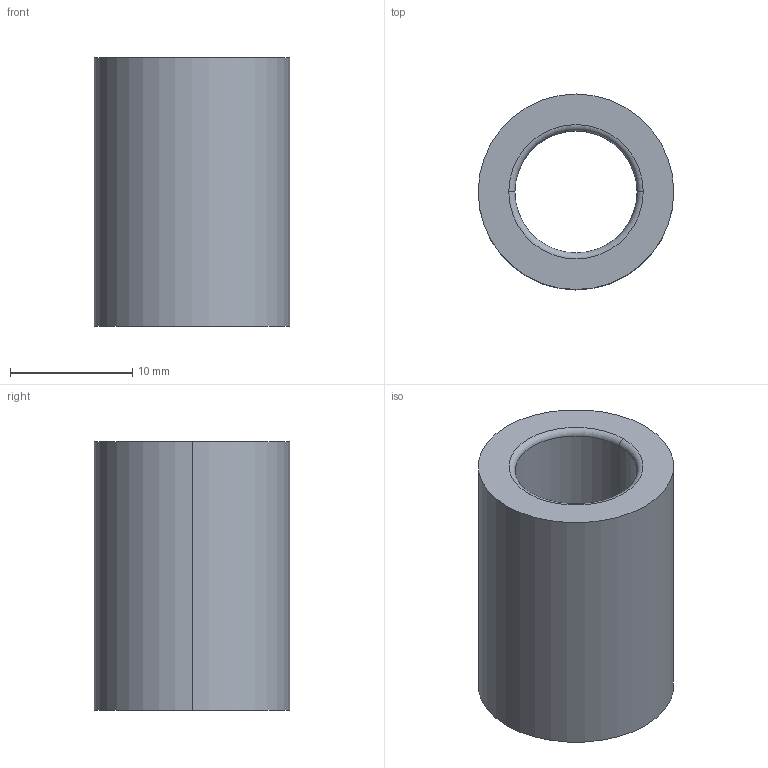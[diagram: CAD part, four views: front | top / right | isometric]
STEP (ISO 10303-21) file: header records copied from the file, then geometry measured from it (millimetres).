
FILE_DESCRIPTION(/* description */ (''),/* implementation_level */ '2;1');
FILE_NAME(/* name */ '3d_sgbz10-22_00298_r00.stp',/* time_stamp */ '2011-01-10T14:11:12+09:00',/* author */ ('MISUMI'),/* organization */ (''),/* preprocessor_version */ 'ST-DEVELOPER v11',/* originating_system */ 'UGS - NX 5.0',/* authorisation */ '');
FILE_SCHEMA (('CONFIG_CONTROL_DESIGN'));
Length unit declared in the file: millimetre
Products named in the file (1): 3d_sgbz10-22_00298_r00
Bounding box: 16 x 16 x 22 mm (x, y, z)
Volume: 2692 mm3; surface area: 2028.8 mm2
Topology: 1 solids, 1 shells, 10 faces, 20 edges, 12 vertices
Faces by surface type: cylinder 4, torus 4, plane 2
Entity records: 358 total; most frequent: DIRECTION 58, CARTESIAN_POINT 43, ORIENTED_EDGE 40, AXIS2_PLACEMENT_3D 27, EDGE_CURVE 20, CIRCLE 16, EDGE_LOOP 12, VERTEX_POINT 12
